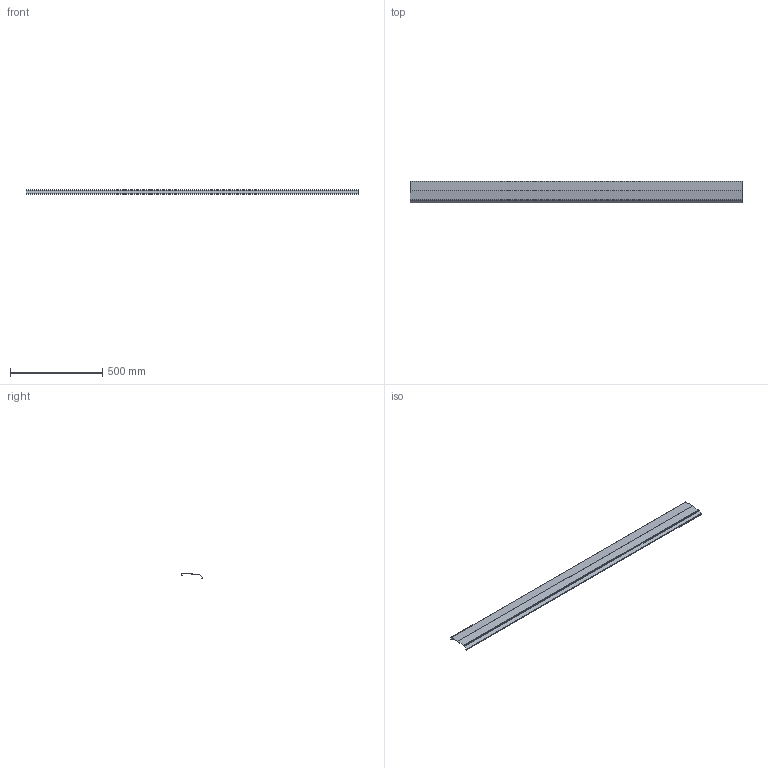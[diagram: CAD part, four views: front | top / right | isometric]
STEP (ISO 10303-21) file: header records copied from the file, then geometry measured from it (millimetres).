
FILE_DESCRIPTION(('STEP AP242'),'1');
FILE_NAME('OPO_51.047.31_volu_schn_3d.stp','2026-03-17T13:40:13',(' '),(' '),'Spatial InterOp 3D',' ',' ');
FILE_SCHEMA(('AP242_MANAGED_MODEL_BASED_3D_ENGINEERING_MIM_LF {1 0 10303 442 1 1 4}'));
Length unit declared in the file: millimetre
Products named in the file (1): 1
Bounding box: 1800 x 118 x 24 mm (x, y, z)
Volume: 266719.8 mm3; surface area: 537335.9 mm2
Topology: 1 solids, 1 shells, 65 faces, 506 edges, 784 vertices
Faces by surface type: plane 45, cylinder 20
Entity records: 6649 total; most frequent: DIRECTION 762, CARTESIAN_POINT 685, STYLED_ITEM 401, PRESENTATION_STYLE_ASSIGNMENT 401, COLOUR_RGB 401, LINE 384, VECTOR 384, ORIENTED_EDGE 340
